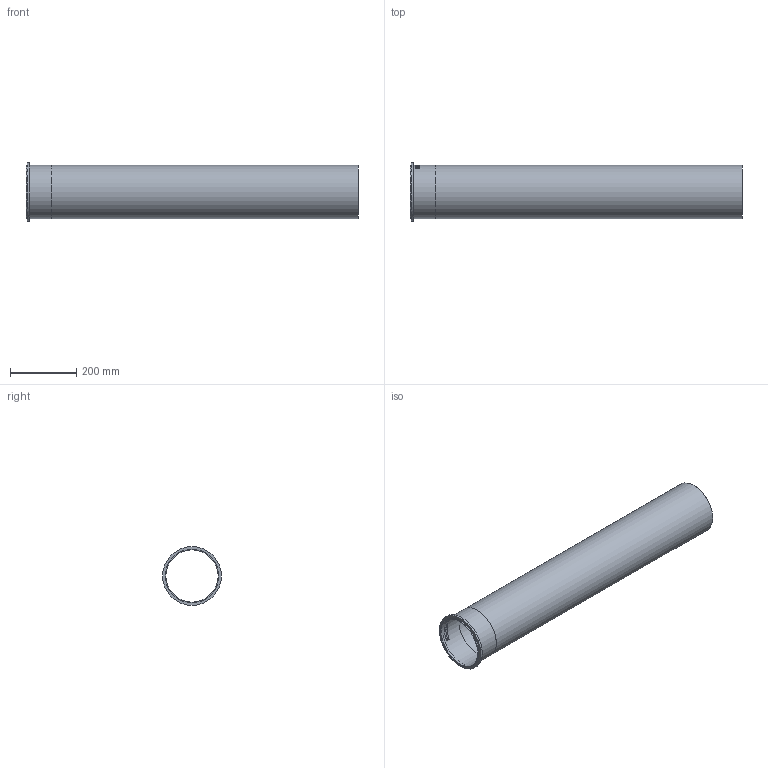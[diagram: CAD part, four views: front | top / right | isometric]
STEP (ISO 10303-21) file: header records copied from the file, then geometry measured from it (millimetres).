
FILE_DESCRIPTION((''),'2;1');
FILE_NAME('I:\WATTS\3D_CAD\3D_CAD_Models\Blucher_Drains\P_StraightPipe\WebsiteFiles\3D\STEP\P6-3.3-316.stp','2009-12-02T16:14:57',('menesek'),(''),'Autodesk Inventor 2010','Autodesk Inventor 2010','');
FILE_SCHEMA(('AUTOMOTIVE_DESIGN { 1 0 10303 214 1 1 1 1 }'));
Length unit declared in the file: inch
Products named in the file (1): P6-3.3-316
Bounding box: 1000 x 177.04 x 177.04 mm (x, y, z)
Volume: 679554.8 mm3; surface area: 1006946.6 mm2
Topology: 1 solids, 1 shells, 109 faces, 285 edges, 190 vertices
Faces by surface type: plane 59, bspline 34, cylinder 16
Full cylindrical faces by diameter (mm): 157.226 x1, 159.766 x1, 160.782 x2, 177.038 x1
Entity records: 13936 total; most frequent: CARTESIAN_POINT 11558, ORIENTED_EDGE 548, DIRECTION 356, EDGE_CURVE 274, VERTEX_POINT 186, EDGE_LOOP 128, AXIS2_PLACEMENT_3D 120, VECTOR 116
